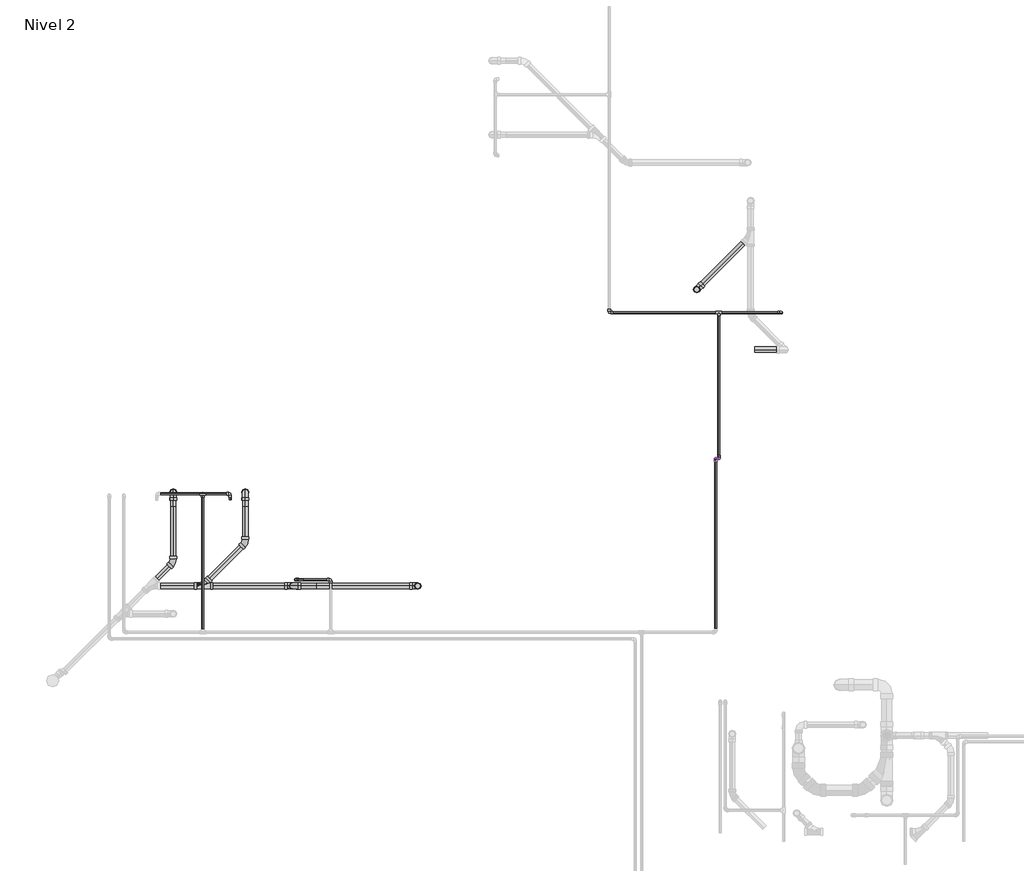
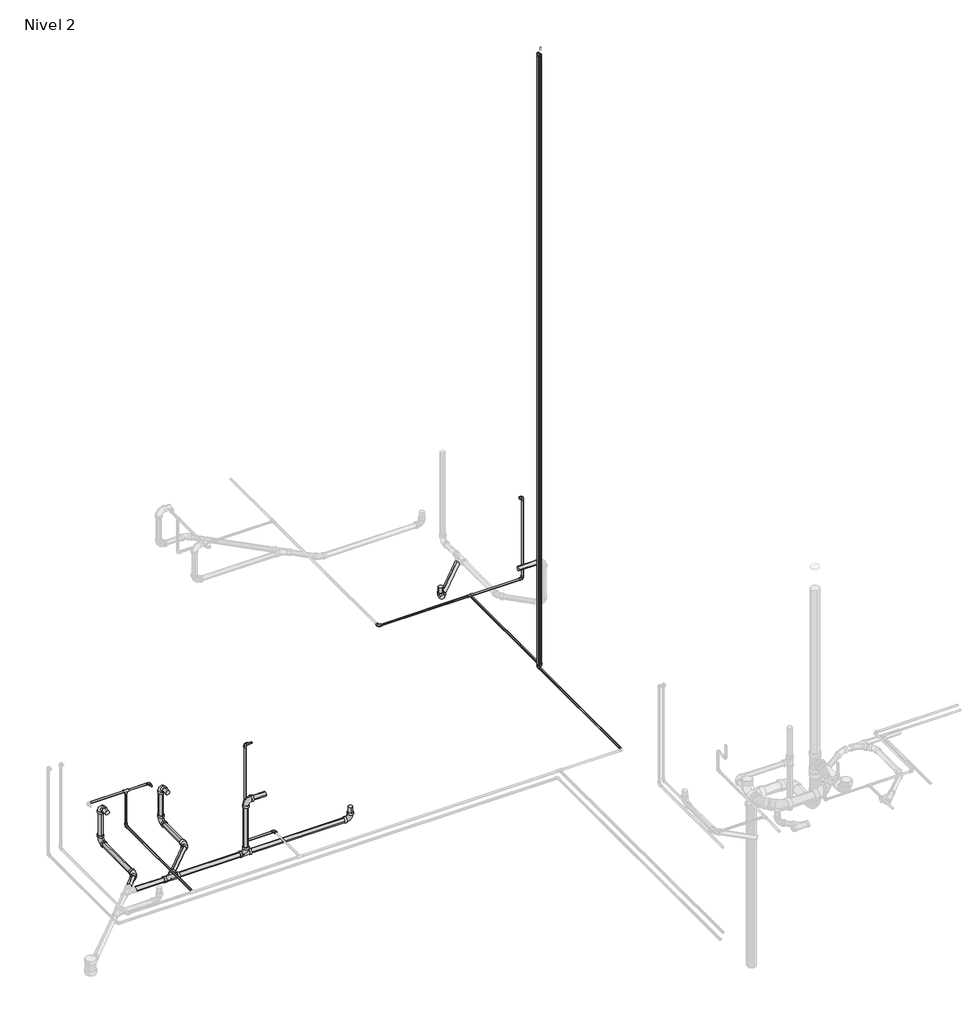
# One storey, part 5 of 9: 33 pipe segments, 24 pipe fittings.
"""IFC4 building model written with IfcOpenShell, lengths in millimetres."""

from ifc_helpers import new_model, si_unit, point, frame, frame_2d, origin, place, context, project, spatial, circle_curve, trimmed, segment, composite_curve, outline, extrude, transform, mapped, element, save
from components import pipe_fitting_ab418b84, pipe_fitting_0163322b, pipe_fitting_6ef1482d, m_codo_pvc_serie_40_9ad74631, m_codo_pvc_serie_40_dwv1_5c0ec739, m_codo_pvc_serie_40_dwv1_6f1a2495

model = new_model("IFC4")

# Units and contexts
model_context = context("Model", 3, world=origin())
ifc_project = project(units=[si_unit("LENGTHUNIT", "METRE", prefix="MILLI")], contexts=[model_context])

# Site, building, storey
site = spatial("IfcSite", under=ifc_project)
building = spatial("IfcBuilding", under=site)
storey = spatial("IfcBuildingStorey", under=building, Name="Nivel 2", Elevation=2800.0)

# Pipe fittings
placement = place(None, origin())
pipe_fitting_shape = pipe_fitting_ab418b84(model_context)
element("IfcPipeFitting", 1, ObjectType="M_Te - PVC - Serie 40 : Estándar", at=placement, inside=storey, context=model_context, shape_type="MappedRepresentation", body=[
    mapped(pipe_fitting_shape, transform((411.6630441, 9037.0181394, 3200.0), x_axis=(-1.0, 0.0, 0.0), y_axis=(0.0, 0.0, 1.0), z_axis=(0.0, 1.0, 0.0))),
])
element("IfcPipeFitting", 2, ObjectType="M_Te - PVC - Serie 40 : Estándar", at=placement, inside=storey, context=model_context, shape_type="MappedRepresentation", body=[
    mapped(pipe_fitting_shape, transform((5709.5674476, 10897.0181394, 2750.0), x_axis=(1.0, 0.0, 0.0), y_axis=(0.0, 1.0, 0.0), z_axis=(0.0, 0.0, 1.0))),
])
pipe_fitting_2_shape = pipe_fitting_0163322b(model_context)
element("IfcPipeFitting", 3, ObjectType="M_Sanitario con te de reducción - PVC - Serie 40 - DWV : Estándar", at=placement, inside=storey, context=model_context, shape_type="MappedRepresentation", body=[
    mapped(pipe_fitting_2_shape, transform((406.2028878, 8091.4220022, 2650.0), x_axis=(1.0, 0.0, 0.0), y_axis=(0.0, -1.0, 0.0), z_axis=(0.0, 0.0, -1.0))),
])
pipe_fitting_3_shape = pipe_fitting_6ef1482d(model_context)
element("IfcPipeFitting", 4, ObjectType="M_Sanitario con te de reducción - PVC - Serie 40 - DWV : Estándar", at=placement, inside=storey, context=model_context, shape_type="MappedRepresentation", body=[
    mapped(pipe_fitting_3_shape, transform((1335.9354338, 8091.4220022, 2650.0), x_axis=(1.0, 0.0, 0.0), y_axis=(0.0, 0.0, -1.0), z_axis=(0.0, 1.0, 0.0))),
])
m_codo_pvc_serie_40_shape = m_codo_pvc_serie_40_9ad74631(model_context)
element("IfcPipeFitting", 5, ObjectType="M_Codo - PVC - Serie 40 : Estándar", at=placement, inside=storey, context=model_context, shape_type="MappedRepresentation", body=[
    mapped(m_codo_pvc_serie_40_shape, transform((1725.1353284, 8157.0181394, 2750.0), x_axis=(0.0, 1.0, 0.0), y_axis=(-1.0, 0.0, 0.0), z_axis=(0.0, 0.0, 1.0))),
])
element("IfcPipeFitting", 6, ObjectType="M_Codo - PVC - Serie 40 : Estándar", at=placement, inside=storey, context=model_context, shape_type="MappedRepresentation", body=[
    mapped(m_codo_pvc_serie_40_shape, transform((1365.1353284, 8157.0181394, 2750.0), x_axis=(-1.0, 0.0, 0.0), y_axis=(0.0, 0.0, 1.0), z_axis=(0.0, 1.0, 0.0))),
])
element("IfcPipeFitting", 7, ObjectType="M_Codo - PVC - Serie 40 : Estándar", at=placement, inside=storey, context=model_context, shape_type="MappedRepresentation", body=[
    mapped(m_codo_pvc_serie_40_shape, transform((1365.1353284, 8157.0181394, 4000.0), x_axis=(0.0, 0.0, 1.0), y_axis=(1.0, 0.0, 0.0), z_axis=(0.0, 1.0, 0.0))),
])
element("IfcPipeFitting", 8, ObjectType="M_Codo - PVC - Serie 40 : Estándar", at=placement, inside=storey, context=model_context, shape_type="MappedRepresentation", body=[
    mapped(m_codo_pvc_serie_40_shape, transform((411.6630441, 9037.0181394, 2750.0), x_axis=(0.0, 1.0, 0.0), y_axis=(0.0, 0.0, 1.0), z_axis=(1.0, 0.0, 0.0))),
])
element("IfcPipeFitting", 9, ObjectType="M_Codo - PVC - Serie 40 : Estándar", at=placement, inside=storey, context=model_context, shape_type="MappedRepresentation", body=[
    mapped(m_codo_pvc_serie_40_shape, transform((691.6630441, 9037.0181394, 3200.0), x_axis=(0.0, 1.0, 0.0), y_axis=(-1.0, 0.0, 0.0), z_axis=(0.0, 0.0, 1.0))),
])
element("IfcPipeFitting", 10, ObjectType="M_Codo - PVC - Serie 40 : Estándar", at=placement, inside=storey, context=model_context, shape_type="MappedRepresentation", body=[
    mapped(m_codo_pvc_serie_40_shape, transform((4584.5674476, 10897.0181394, 2750.0), x_axis=(0.0, -1.0, 0.0), y_axis=(1.0, 0.0, 0.0), z_axis=(0.0, 0.0, 1.0))),
])
element("IfcPipeFitting", 11, ObjectType="M_Codo - PVC - Serie 40 : Estándar", at=placement, inside=storey, context=model_context, shape_type="MappedRepresentation", body=[
    mapped(m_codo_pvc_serie_40_shape, transform((6348.7776039, 10897.0181394, 2750.0), x_axis=(1.0, 0.0, 0.0), y_axis=(0.0, 0.0, 1.0), z_axis=(0.0, -1.0, 0.0))),
])
element("IfcPipeFitting", 12, ObjectType="M_Codo - PVC - Serie 40 : Estándar", at=placement, inside=storey, context=model_context, shape_type="MappedRepresentation", body=[
    mapped(m_codo_pvc_serie_40_shape, transform((6348.7776039, 10897.0181394, 3800.0), x_axis=(0.0, 0.0, 1.0), y_axis=(-1.0, 0.0, 0.0), z_axis=(0.0, -1.0, 0.0))),
])
element("IfcPipeFitting", 13, ObjectType="M_Codo - PVC - Serie 40 : Estándar", at=placement, inside=storey, context=model_context, shape_type="MappedRepresentation", body=[
    mapped(m_codo_pvc_serie_40_shape, transform((5676.6630441, 9399.5181394, 2750.0), x_axis=(0.0, 1.0, 0.0), y_axis=(0.0, 0.0, 1.0), z_axis=(1.0, 0.0, 0.0))),
])
element("IfcPipeFitting", 14, ObjectType="M_Codo - PVC - Serie 40 : Estándar", at=placement, inside=storey, context=model_context, shape_type="MappedRepresentation", body=[
    mapped(m_codo_pvc_serie_40_shape, transform((5709.5674476, 9399.5181394, 2750.0), x_axis=(0.0, -1.0, 0.0), y_axis=(0.0, 0.0, 1.0), z_axis=(-1.0, 0.0, 0.0))),
])
element("IfcPipeFitting", 15, ObjectType="M_Codo - PVC - Serie 40 : Estándar", at=placement, inside=storey, context=model_context, shape_type="MappedRepresentation", body=[
    mapped(m_codo_pvc_serie_40_shape, transform((5676.6630441, 9399.5181394, 10700.0), x_axis=(0.0, 0.0, 1.0), y_axis=(0.0, -1.0, 0.0), z_axis=(1.0, 0.0, 0.0))),
])
m_codo_pvc_serie_40_dwv1_shape = m_codo_pvc_serie_40_dwv1_5c0ec739(model_context)
element("IfcPipeFitting", 16, ObjectType="M_Codo - PVC - Serie 40 - DWV1 : Estándar 2", at=placement, inside=storey, context=model_context, shape_type="MappedRepresentation", body=[
    mapped(m_codo_pvc_serie_40_dwv1_shape, transform((5482.7118337, 11133.8085879, 2650.0), x_axis=(-0.7071067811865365, -0.7071067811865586, 0.0), y_axis=(0.0, 0.0, 1.0), z_axis=(-0.7071067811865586, 0.7071067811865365, 0.0))),
])
element("IfcPipeFitting", 17, ObjectType="M_Codo - PVC - Serie 40 - DWV1 : Estándar 2", at=placement, inside=storey, context=model_context, shape_type="MappedRepresentation", body=[
    mapped(m_codo_pvc_serie_40_dwv1_shape, transform((109.5958692, 9052.7311146, 3100.0), x_axis=(0.0, 1.0, 0.0), y_axis=(0.0, 0.0, -1.0), z_axis=(-1.0, 0.0, 0.0))),
])
element("IfcPipeFitting", 18, ObjectType="M_Codo - PVC - Serie 40 - DWV1 : Estándar 2", at=placement, inside=storey, context=model_context, shape_type="MappedRepresentation", body=[
    mapped(m_codo_pvc_serie_40_dwv1_shape, transform((109.5958692, 9052.7311146, 2650.0), x_axis=(0.0, 0.0, -1.0), y_axis=(0.0, -1.0, 0.0), z_axis=(-1.0, 0.0, 0.0))),
])
element("IfcPipeFitting", 19, ObjectType="M_Codo - PVC - Serie 40 - DWV1 : Estándar 2", at=placement, inside=storey, context=model_context, shape_type="MappedRepresentation", body=[
    mapped(m_codo_pvc_serie_40_dwv1_shape, transform((849.5958692, 9052.7311146, 3100.0), x_axis=(0.0, 1.0, 0.0), y_axis=(0.0, 0.0, -1.0), z_axis=(-1.0, 0.0, 0.0))),
])
element("IfcPipeFitting", 20, ObjectType="M_Codo - PVC - Serie 40 - DWV1 : Estándar 2", at=placement, inside=storey, context=model_context, shape_type="MappedRepresentation", body=[
    mapped(m_codo_pvc_serie_40_dwv1_shape, transform((849.5958692, 9052.7311146, 2650.0), x_axis=(0.0, 0.0, -1.0), y_axis=(0.0, -1.0, 0.0), z_axis=(-1.0, 0.0, 0.0))),
])
element("IfcPipeFitting", 21, ObjectType="M_Codo - PVC - Serie 40 - DWV1 : Estándar 2", at=placement, inside=storey, context=model_context, shape_type="MappedRepresentation", body=[
    mapped(m_codo_pvc_serie_40_dwv1_shape, transform((1335.9354338, 8091.4220022, 3330.0), x_axis=(0.0, 0.0, 1.0), y_axis=(1.0, 0.0, 0.0), z_axis=(0.0, 1.0, 0.0))),
])
element("IfcPipeFitting", 22, ObjectType="M_Codo - PVC - Serie 40 - DWV1 : Estándar 2", at=placement, inside=storey, context=model_context, shape_type="MappedRepresentation", body=[
    mapped(m_codo_pvc_serie_40_dwv1_shape, transform((2619.133962, 8091.4220022, 2650.0), x_axis=(0.0, 0.0, -1.0), y_axis=(-1.0, 0.0, 0.0), z_axis=(0.0, 1.0, 0.0))),
])
m_codo_pvc_serie_40_dwv1_2_shape = m_codo_pvc_serie_40_dwv1_6f1a2495(model_context)
element("IfcPipeFitting", 23, ObjectType="M_Codo - PVC - Serie 40 - DWV1 : Estándar 2", at=placement, inside=storey, context=model_context, shape_type="MappedRepresentation", body=[
    mapped(m_codo_pvc_serie_40_dwv1_2_shape, transform((109.5958692, 8334.8149836, 2650.0), x_axis=(0.7071067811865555, 0.7071067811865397, 0.0), y_axis=(-0.7071067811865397, 0.7071067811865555, 0.0), z_axis=(0.0, 0.0, 1.0))),
])
element("IfcPipeFitting", 24, ObjectType="M_Codo - PVC - Serie 40 - DWV1 : Estándar 2", at=placement, inside=storey, context=model_context, shape_type="MappedRepresentation", body=[
    mapped(m_codo_pvc_serie_40_dwv1_2_shape, transform((849.5958692, 8534.8149836, 2650.0), x_axis=(0.7071067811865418, 0.7071067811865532, 0.0), y_axis=(-0.7071067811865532, 0.7071067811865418, 0.0), z_axis=(0.0, 0.0, 1.0))),
])

# Pipe segments
element("IfcPipeSegment", 25, ObjectType="Tuberia PVC Agua Fria", at=placement, inside=storey, context=model_context, shape_type="SweptSolid", body=[
    extrude(outline(composite_curve([segment(trimmed(circle_curve(frame_2d((2750.0, 5676.6630441)), 10.31875), [point((2750.0, 5686.9817941))], [point((2760.31875, 5676.6630441))], False, "CARTESIAN"), True, "CONTINUOUS"), segment(trimmed(circle_curve(frame_2d((2750.0, 5676.6630441)), 10.31875), [point((2760.31875, 5676.6630441))], [point((2750.0, 5666.3442941))], False, "CARTESIAN"), True, "CONTINUOUS"), segment(trimmed(circle_curve(frame_2d((2750.0, 5676.6630441)), 10.31875), [point((2750.0, 5666.3442941))], [point((2739.68125, 5676.6630441))], False, "CARTESIAN"), True, "CONTINUOUS"), segment(trimmed(circle_curve(frame_2d((2750.0, 5676.6630441)), 10.31875), [point((2739.68125, 5676.6630441))], [point((2750.0, 5686.9817941))], False, "CARTESIAN"), True, "CONTINUOUS")], self_intersect=False)), frame((0.0, 7650.4191394, 0.0), z_axis=(0.0, 1.0, 0.0), x_axis=(0.0, 0.0, 1.0)), (0.0, 0.0, 1.0), 1715.698),
])
element("IfcPipeSegment", 26, ObjectType="Tuberia PVC Agua Fria", at=placement, inside=storey, context=model_context, shape_type="SweptSolid", body=[
    extrude(outline(composite_curve([segment(trimmed(circle_curve(frame_2d((2750.0, 411.6630441)), 10.31875), [point((2750.0, 421.9817941))], [point((2760.31875, 411.6630441))], False, "CARTESIAN"), True, "CONTINUOUS"), segment(trimmed(circle_curve(frame_2d((2750.0, 411.6630441)), 10.31875), [point((2760.31875, 411.6630441))], [point((2750.0, 401.3442941))], False, "CARTESIAN"), True, "CONTINUOUS"), segment(trimmed(circle_curve(frame_2d((2750.0, 411.6630441)), 10.31875), [point((2750.0, 401.3442941))], [point((2739.68125, 411.6630441))], False, "CARTESIAN"), True, "CONTINUOUS"), segment(trimmed(circle_curve(frame_2d((2750.0, 411.6630441)), 10.31875), [point((2739.68125, 411.6630441))], [point((2750.0, 421.9817941))], False, "CARTESIAN"), True, "CONTINUOUS")], self_intersect=False)), frame((0.0, 7647.4782956, 0.0), z_axis=(0.0, 1.0, 0.0), x_axis=(0.0, 0.0, 1.0)), (0.0, 0.0, 1.0), 1356.1388437),
])
element("IfcPipeSegment", 27, ObjectType="Tuberia PVC Agua Fria", at=placement, inside=storey, context=model_context, shape_type="SweptSolid", body=[
    extrude(outline(composite_curve([segment(trimmed(circle_curve(frame_2d((8157.0181394, 2750.0)), 10.31875), [point((8167.3368894, 2750.0))], [point((8157.0181394, 2739.68125))], False, "CARTESIAN"), True, "CONTINUOUS"), segment(trimmed(circle_curve(frame_2d((8157.0181394, 2750.0)), 10.31875), [point((8157.0181394, 2739.68125))], [point((8146.6993894, 2750.0))], False, "CARTESIAN"), True, "CONTINUOUS"), segment(trimmed(circle_curve(frame_2d((8157.0181394, 2750.0)), 10.31875), [point((8146.6993894, 2750.0))], [point((8157.0181394, 2760.31875))], False, "CARTESIAN"), True, "CONTINUOUS"), segment(trimmed(circle_curve(frame_2d((8157.0181394, 2750.0)), 10.31875), [point((8157.0181394, 2760.31875))], [point((8167.3368894, 2750.0))], False, "CARTESIAN"), True, "CONTINUOUS")], self_intersect=False)), frame((1398.5363284, 0.0, 0.0), z_axis=(1.0, 0.0, 0.0), x_axis=(0.0, 1.0, 0.0)), (0.0, 0.0, 1.0), 293.198),
])
element("IfcPipeSegment", 28, ObjectType="Tuberia PVC Agua Fria", at=placement, inside=storey, context=model_context, shape_type="SweptSolid", body=[
    extrude(outline(composite_curve([segment(trimmed(circle_curve(frame_2d((8157.0181394, 4000.0)), 10.31875), [point((8146.6993894, 4000.0))], [point((8157.0181394, 4010.31875))], False, "CARTESIAN"), True, "CONTINUOUS"), segment(trimmed(circle_curve(frame_2d((8157.0181394, 4000.0)), 10.31875), [point((8157.0181394, 4010.31875))], [point((8167.3368894, 4000.0))], False, "CARTESIAN"), True, "CONTINUOUS"), segment(trimmed(circle_curve(frame_2d((8157.0181394, 4000.0)), 10.31875), [point((8167.3368894, 4000.0))], [point((8157.0181394, 3989.68125))], False, "CARTESIAN"), True, "CONTINUOUS"), segment(trimmed(circle_curve(frame_2d((8157.0181394, 4000.0)), 10.31875), [point((8157.0181394, 3989.68125))], [point((8146.6993894, 4000.0))], False, "CARTESIAN"), True, "CONTINUOUS")], self_intersect=False)), frame((1398.5363284, 0.0, 0.0), z_axis=(1.0, 0.0, 0.0), x_axis=(0.0, 1.0, 0.0)), (0.0, 0.0, 1.0), 46.599),
])
element("IfcPipeSegment", 29, ObjectType="Tuberia PVC Agua Fria", at=placement, inside=storey, context=model_context, shape_type="SweptSolid", body=[
    extrude(outline(composite_curve([segment(trimmed(circle_curve(frame_2d((1365.1353284, 8157.0181394)), 10.31875), [point((1354.8165784, 8157.0181394))], [point((1365.1353284, 8167.3368894))], False, "CARTESIAN"), True, "CONTINUOUS"), segment(trimmed(circle_curve(frame_2d((1365.1353284, 8157.0181394)), 10.31875), [point((1365.1353284, 8167.3368894))], [point((1375.4540784, 8157.0181394))], False, "CARTESIAN"), True, "CONTINUOUS"), segment(trimmed(circle_curve(frame_2d((1365.1353284, 8157.0181394)), 10.31875), [point((1375.4540784, 8157.0181394))], [point((1365.1353284, 8146.6993894))], False, "CARTESIAN"), True, "CONTINUOUS"), segment(trimmed(circle_curve(frame_2d((1365.1353284, 8157.0181394)), 10.31875), [point((1365.1353284, 8146.6993894))], [point((1354.8165784, 8157.0181394))], False, "CARTESIAN"), True, "CONTINUOUS")], self_intersect=False)), frame((0.0, 0.0, 2783.401), z_axis=(0.0, 0.0, 1.0), x_axis=(1.0, 0.0, 0.0)), (0.0, 0.0, 1.0), 1183.198),
])
element("IfcPipeSegment", 30, ObjectType="Tuberia PVC Agua Fria", at=placement, inside=storey, context=model_context, shape_type="SweptSolid", body=[
    extrude(outline(composite_curve([segment(trimmed(circle_curve(frame_2d((9037.0181394, 3200.0)), 10.31875), [point((9026.6993894, 3200.0))], [point((9037.0181394, 3210.31875))], False, "CARTESIAN"), True, "CONTINUOUS"), segment(trimmed(circle_curve(frame_2d((9037.0181394, 3200.0)), 10.31875), [point((9037.0181394, 3210.31875))], [point((9047.3368894, 3200.0))], False, "CARTESIAN"), True, "CONTINUOUS"), segment(trimmed(circle_curve(frame_2d((9037.0181394, 3200.0)), 10.31875), [point((9047.3368894, 3200.0))], [point((9037.0181394, 3189.68125))], False, "CARTESIAN"), True, "CONTINUOUS"), segment(trimmed(circle_curve(frame_2d((9037.0181394, 3200.0)), 10.31875), [point((9037.0181394, 3189.68125))], [point((9026.6993894, 3200.0))], False, "CARTESIAN"), True, "CONTINUOUS")], self_intersect=False)), frame((442.1232003, 0.0, 0.0), z_axis=(1.0, 0.0, 0.0), x_axis=(0.0, 1.0, 0.0)), (0.0, 0.0, 1.0), 216.1388438),
])
element("IfcPipeSegment", 31, ObjectType="Tuberia PVC Agua Fria", at=placement, inside=storey, context=model_context, shape_type="SweptSolid", body=[
    extrude(outline(composite_curve([segment(trimmed(circle_curve(frame_2d((411.6630441, 9037.0181394)), 10.31875), [point((401.3442941, 9037.0181394))], [point((411.6630441, 9047.3368894))], False, "CARTESIAN"), True, "CONTINUOUS"), segment(trimmed(circle_curve(frame_2d((411.6630441, 9037.0181394)), 10.31875), [point((411.6630441, 9047.3368894))], [point((421.9817941, 9037.0181394))], False, "CARTESIAN"), True, "CONTINUOUS"), segment(trimmed(circle_curve(frame_2d((411.6630441, 9037.0181394)), 10.31875), [point((421.9817941, 9037.0181394))], [point((411.6630441, 9026.6993894))], False, "CARTESIAN"), True, "CONTINUOUS"), segment(trimmed(circle_curve(frame_2d((411.6630441, 9037.0181394)), 10.31875), [point((411.6630441, 9026.6993894))], [point((401.3442941, 9037.0181394))], False, "CARTESIAN"), True, "CONTINUOUS")], self_intersect=False)), frame((0.0, 0.0, 2783.401), z_axis=(0.0, 0.0, 1.0), x_axis=(1.0, 0.0, 0.0)), (0.0, 0.0, 1.0), 386.1388438),
])
element("IfcPipeSegment", 32, ObjectType="Tuberia PVC Agua Fria", at=placement, inside=storey, context=model_context, shape_type="SweptSolid", body=[
    extrude(outline(composite_curve([segment(trimmed(circle_curve(frame_2d((3200.0, 691.6630441)), 10.31875), [point((3200.0, 681.3442941))], [point((3189.68125, 691.6630441))], False, "CARTESIAN"), True, "CONTINUOUS"), segment(trimmed(circle_curve(frame_2d((3200.0, 691.6630441)), 10.31875), [point((3189.68125, 691.6630441))], [point((3200.0, 701.9817941))], False, "CARTESIAN"), True, "CONTINUOUS"), segment(trimmed(circle_curve(frame_2d((3200.0, 691.6630441)), 10.31875), [point((3200.0, 701.9817941))], [point((3210.31875, 691.6630441))], False, "CARTESIAN"), True, "CONTINUOUS"), segment(trimmed(circle_curve(frame_2d((3200.0, 691.6630441)), 10.31875), [point((3210.31875, 691.6630441))], [point((3200.0, 681.3442941))], False, "CARTESIAN"), True, "CONTINUOUS")], self_intersect=False)), frame((0.0, 8977.0181394, 0.0), z_axis=(0.0, 1.0, 0.0), x_axis=(0.0, 0.0, 1.0)), (0.0, 0.0, 1.0), 26.599),
])
element("IfcPipeSegment", 33, ObjectType="Tuberia PVC Agua Fria", at=placement, inside=storey, context=model_context, shape_type="SweptSolid", body=[
    extrude(outline(composite_curve([segment(trimmed(circle_curve(frame_2d((9037.0181394, 3200.0)), 10.31875), [point((9047.3368894, 3200.0))], [point((9037.0181394, 3189.68125))], False, "CARTESIAN"), True, "CONTINUOUS"), segment(trimmed(circle_curve(frame_2d((9037.0181394, 3200.0)), 10.31875), [point((9037.0181394, 3189.68125))], [point((9026.6993894, 3200.0))], False, "CARTESIAN"), True, "CONTINUOUS"), segment(trimmed(circle_curve(frame_2d((9037.0181394, 3200.0)), 10.31875), [point((9026.6993894, 3200.0))], [point((9037.0181394, 3210.31875))], False, "CARTESIAN"), True, "CONTINUOUS"), segment(trimmed(circle_curve(frame_2d((9037.0181394, 3200.0)), 10.31875), [point((9037.0181394, 3210.31875))], [point((9047.3368894, 3200.0))], False, "CARTESIAN"), True, "CONTINUOUS")], self_intersect=False)), frame((-25.3961122, 0.0, 0.0), z_axis=(1.0, 0.0, 0.0), x_axis=(0.0, 1.0, 0.0)), (0.0, 0.0, 1.0), 406.599),
])
element("IfcPipeSegment", 34, ObjectType="Tuberia PVC Agua Fria", at=placement, inside=storey, context=model_context, shape_type="SweptSolid", body=[
    extrude(outline(composite_curve([segment(trimmed(circle_curve(frame_2d((2750.0, 5709.5674476)), 10.31875), [point((2750.0, 5719.8861976))], [point((2760.31875, 5709.5674476))], False, "CARTESIAN"), True, "CONTINUOUS"), segment(trimmed(circle_curve(frame_2d((2750.0, 5709.5674476)), 10.31875), [point((2760.31875, 5709.5674476))], [point((2750.0, 5699.2486976))], False, "CARTESIAN"), True, "CONTINUOUS"), segment(trimmed(circle_curve(frame_2d((2750.0, 5709.5674476)), 10.31875), [point((2750.0, 5699.2486976))], [point((2739.68125, 5709.5674476))], False, "CARTESIAN"), True, "CONTINUOUS"), segment(trimmed(circle_curve(frame_2d((2750.0, 5709.5674476)), 10.31875), [point((2739.68125, 5709.5674476))], [point((2750.0, 5719.8861976))], False, "CARTESIAN"), True, "CONTINUOUS")], self_intersect=False)), frame((0.0, 9432.9191394, 0.0), z_axis=(0.0, 1.0, 0.0), x_axis=(0.0, 0.0, 1.0)), (0.0, 0.0, 1.0), 1433.6388438),
])
element("IfcPipeSegment", 35, ObjectType="Tuberia PVC Agua Fria", at=placement, inside=storey, context=model_context, shape_type="SweptSolid", body=[
    extrude(outline(composite_curve([segment(trimmed(circle_curve(frame_2d((10897.0181394, 2750.0)), 10.31875), [point((10907.3368894, 2750.0))], [point((10897.0181394, 2739.68125))], False, "CARTESIAN"), True, "CONTINUOUS"), segment(trimmed(circle_curve(frame_2d((10897.0181394, 2750.0)), 10.31875), [point((10897.0181394, 2739.68125))], [point((10886.6993894, 2750.0))], False, "CARTESIAN"), True, "CONTINUOUS"), segment(trimmed(circle_curve(frame_2d((10897.0181394, 2750.0)), 10.31875), [point((10886.6993894, 2750.0))], [point((10897.0181394, 2760.31875))], False, "CARTESIAN"), True, "CONTINUOUS"), segment(trimmed(circle_curve(frame_2d((10897.0181394, 2750.0)), 10.31875), [point((10897.0181394, 2760.31875))], [point((10907.3368894, 2750.0))], False, "CARTESIAN"), True, "CONTINUOUS")], self_intersect=False)), frame((4617.9684476, 0.0, 0.0), z_axis=(1.0, 0.0, 0.0), x_axis=(0.0, 1.0, 0.0)), (0.0, 0.0, 1.0), 1061.1388438),
])
element("IfcPipeSegment", 36, ObjectType="Tuberia PVC Agua Fria", at=placement, inside=storey, context=model_context, shape_type="SweptSolid", body=[
    extrude(outline(composite_curve([segment(trimmed(circle_curve(frame_2d((10897.0181394, 2750.0)), 10.31875), [point((10886.6993894, 2750.0))], [point((10897.0181394, 2760.31875))], False, "CARTESIAN"), True, "CONTINUOUS"), segment(trimmed(circle_curve(frame_2d((10897.0181394, 2750.0)), 10.31875), [point((10897.0181394, 2760.31875))], [point((10907.3368894, 2750.0))], False, "CARTESIAN"), True, "CONTINUOUS"), segment(trimmed(circle_curve(frame_2d((10897.0181394, 2750.0)), 10.31875), [point((10907.3368894, 2750.0))], [point((10897.0181394, 2739.68125))], False, "CARTESIAN"), True, "CONTINUOUS"), segment(trimmed(circle_curve(frame_2d((10897.0181394, 2750.0)), 10.31875), [point((10897.0181394, 2739.68125))], [point((10886.6993894, 2750.0))], False, "CARTESIAN"), True, "CONTINUOUS")], self_intersect=False)), frame((5740.0276039, 0.0, 0.0), z_axis=(1.0, 0.0, 0.0), x_axis=(0.0, 1.0, 0.0)), (0.0, 0.0, 1.0), 575.349),
])
element("IfcPipeSegment", 37, ObjectType="Tuberia PVC Agua Fria", at=placement, inside=storey, context=model_context, shape_type="SweptSolid", body=[
    extrude(outline(composite_curve([segment(trimmed(circle_curve(frame_2d((6348.7776039, 10897.0181394)), 10.31875), [point((6338.4588539, 10897.0181394))], [point((6348.7776039, 10907.3368894))], False, "CARTESIAN"), True, "CONTINUOUS"), segment(trimmed(circle_curve(frame_2d((6348.7776039, 10897.0181394)), 10.31875), [point((6348.7776039, 10907.3368894))], [point((6359.0963539, 10897.0181394))], False, "CARTESIAN"), True, "CONTINUOUS"), segment(trimmed(circle_curve(frame_2d((6348.7776039, 10897.0181394)), 10.31875), [point((6359.0963539, 10897.0181394))], [point((6348.7776039, 10886.6993894))], False, "CARTESIAN"), True, "CONTINUOUS"), segment(trimmed(circle_curve(frame_2d((6348.7776039, 10897.0181394)), 10.31875), [point((6348.7776039, 10886.6993894))], [point((6338.4588539, 10897.0181394))], False, "CARTESIAN"), True, "CONTINUOUS")], self_intersect=False)), frame((0.0, 0.0, 2783.401), z_axis=(0.0, 0.0, 1.0), x_axis=(1.0, 0.0, 0.0)), (0.0, 0.0, 1.0), 983.198),
])
element("IfcPipeSegment", 38, ObjectType="Tuberia PVC Agua Fria", at=placement, inside=storey, context=model_context, shape_type="SweptSolid", body=[
    extrude(outline(composite_curve([segment(trimmed(circle_curve(frame_2d((5676.6630441, 9399.5181394)), 10.31875), [point((5666.3442941, 9399.5181394))], [point((5676.6630441, 9409.8368894))], False, "CARTESIAN"), True, "CONTINUOUS"), segment(trimmed(circle_curve(frame_2d((5676.6630441, 9399.5181394)), 10.31875), [point((5676.6630441, 9409.8368894))], [point((5686.9817941, 9399.5181394))], False, "CARTESIAN"), True, "CONTINUOUS"), segment(trimmed(circle_curve(frame_2d((5676.6630441, 9399.5181394)), 10.31875), [point((5686.9817941, 9399.5181394))], [point((5676.6630441, 9389.1993894))], False, "CARTESIAN"), True, "CONTINUOUS"), segment(trimmed(circle_curve(frame_2d((5676.6630441, 9399.5181394)), 10.31875), [point((5676.6630441, 9389.1993894))], [point((5666.3442941, 9399.5181394))], False, "CARTESIAN"), True, "CONTINUOUS")], self_intersect=False)), frame((0.0, 0.0, 2783.401), z_axis=(0.0, 0.0, 1.0), x_axis=(1.0, 0.0, 0.0)), (0.0, 0.0, 1.0), 7883.198),
])
element("IfcPipeSegment", 39, ObjectType="Tuberia PVC Agua Fria", at=placement, inside=storey, context=model_context, shape_type="SweptSolid", body=[
    extrude(outline(composite_curve([segment(trimmed(circle_curve(frame_2d((5709.5674476, 9399.5181394)), 10.31875), [point((5699.2486976, 9399.5181394))], [point((5709.5674476, 9409.8368894))], False, "CARTESIAN"), True, "CONTINUOUS"), segment(trimmed(circle_curve(frame_2d((5709.5674476, 9399.5181394)), 10.31875), [point((5709.5674476, 9409.8368894))], [point((5719.8861976, 9399.5181394))], False, "CARTESIAN"), True, "CONTINUOUS"), segment(trimmed(circle_curve(frame_2d((5709.5674476, 9399.5181394)), 10.31875), [point((5719.8861976, 9399.5181394))], [point((5709.5674476, 9389.1993894))], False, "CARTESIAN"), True, "CONTINUOUS"), segment(trimmed(circle_curve(frame_2d((5709.5674476, 9399.5181394)), 10.31875), [point((5709.5674476, 9389.1993894))], [point((5699.2486976, 9399.5181394))], False, "CARTESIAN"), True, "CONTINUOUS")], self_intersect=False)), frame((0.0, 0.0, 10730.4601563), z_axis=(0.0, 0.0, 1.0), x_axis=(1.0, 0.0, 0.0)), (0.0, 0.0, 1.0), 32.3234062),
])
element("IfcPipeSegment", 40, ObjectType="Tuberia PVC Agua Fria", at=placement, inside=storey, context=model_context, shape_type="SweptSolid", body=[
    extrude(outline(composite_curve([segment(trimmed(circle_curve(frame_2d((5709.5674476, 9399.5181394)), 10.31875), [point((5699.2486976, 9399.5181394))], [point((5709.5674476, 9409.8368894))], False, "CARTESIAN"), True, "CONTINUOUS"), segment(trimmed(circle_curve(frame_2d((5709.5674476, 9399.5181394)), 10.31875), [point((5709.5674476, 9409.8368894))], [point((5719.8861976, 9399.5181394))], False, "CARTESIAN"), True, "CONTINUOUS"), segment(trimmed(circle_curve(frame_2d((5709.5674476, 9399.5181394)), 10.31875), [point((5719.8861976, 9399.5181394))], [point((5709.5674476, 9389.1993894))], False, "CARTESIAN"), True, "CONTINUOUS"), segment(trimmed(circle_curve(frame_2d((5709.5674476, 9399.5181394)), 10.31875), [point((5709.5674476, 9389.1993894))], [point((5699.2486976, 9399.5181394))], False, "CARTESIAN"), True, "CONTINUOUS")], self_intersect=False)), frame((0.0, 0.0, 2783.401), z_axis=(0.0, 0.0, 1.0), x_axis=(1.0, 0.0, 0.0)), (0.0, 0.0, 1.0), 7886.1388438),
])
element("IfcPipeSegment", 41, ObjectType="Tuberia PVC Sanitario", at=placement, inside=storey, context=model_context, shape_type="SweptSolid", body=[
    extrude(outline(composite_curve([segment(trimmed(circle_curve(frame_2d((10516.9594307, 3200.0)), 26.9875), [point((10543.9469307, 3200.0))], [point((10516.9594307, 3173.0125))], False, "CARTESIAN"), True, "CONTINUOUS"), segment(trimmed(circle_curve(frame_2d((10516.9594307, 3200.0)), 26.9875), [point((10516.9594307, 3173.0125))], [point((10489.9719307, 3200.0))], False, "CARTESIAN"), True, "CONTINUOUS"), segment(trimmed(circle_curve(frame_2d((10516.9594307, 3200.0)), 26.9875), [point((10489.9719307, 3200.0))], [point((10516.9594307, 3226.9875))], False, "CARTESIAN"), True, "CONTINUOUS"), segment(trimmed(circle_curve(frame_2d((10516.9594307, 3200.0)), 26.9875), [point((10516.9594307, 3226.9875))], [point((10543.9469307, 3200.0))], False, "CARTESIAN"), True, "CONTINUOUS")], self_intersect=False)), frame((6077.7966771, 0.0, 0.0), z_axis=(1.0, 0.0, 0.0), x_axis=(0.0, 1.0, 0.0)), (0.0, 0.0, 1.0), 227.4579375),
])
element("IfcPipeSegment", 42, ObjectType="Tuberia PVC Sanitario", at=placement, inside=storey, context=model_context, shape_type="SweptSolid", body=[
    extrude(outline(composite_curve([segment(trimmed(circle_curve(frame_2d((0.0, -26.9875)), 26.9875), [point((-26.9875001, -26.9875))], [point((0.0, 0.0))], False, "CARTESIAN"), True, "CONTINUOUS"), segment(trimmed(circle_curve(frame_2d((0.0, -26.9875)), 26.9875), [point((0.0, 0.0))], [point((26.9874999, -26.9875))], False, "CARTESIAN"), True, "CONTINUOUS"), segment(trimmed(circle_curve(frame_2d((0.0, -26.9875)), 26.9875), [point((26.9874999, -26.9875))], [point((0.0, -53.975))], False, "CARTESIAN"), True, "CONTINUOUS"), segment(trimmed(circle_curve(frame_2d((0.0, -26.9875)), 26.9875), [point((0.0, -53.975))], [point((-26.9875001, -26.9875))], False, "CARTESIAN"), True, "CONTINUOUS")], self_intersect=False)), frame((5541.0778859, 11192.17464, 2623.0125), z_axis=(0.7071067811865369, 0.7071067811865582, 0.0), x_axis=(0.7071067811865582, -0.7071067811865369, 0.0)), (0.0, 0.0, 1.0), 588.6203308),
])
element("IfcPipeSegment", 43, ObjectType="Tuberia PVC Sanitario", at=placement, inside=storey, context=model_context, shape_type="SweptSolid", body=[
    extrude(outline(composite_curve([segment(trimmed(circle_curve(frame_2d((5482.7118337, 11133.8085879)), 26.9875), [point((5455.7243337, 11133.8085879))], [point((5482.7118337, 11160.7960879))], False, "CARTESIAN"), True, "CONTINUOUS"), segment(trimmed(circle_curve(frame_2d((5482.7118337, 11133.8085879)), 26.9875), [point((5482.7118337, 11160.7960879))], [point((5509.6993337, 11133.8085879))], False, "CARTESIAN"), True, "CONTINUOUS"), segment(trimmed(circle_curve(frame_2d((5482.7118337, 11133.8085879)), 26.9875), [point((5509.6993337, 11133.8085879))], [point((5482.7118337, 11106.8210879))], False, "CARTESIAN"), True, "CONTINUOUS"), segment(trimmed(circle_curve(frame_2d((5482.7118337, 11133.8085879)), 26.9875), [point((5482.7118337, 11106.8210879))], [point((5455.7243337, 11133.8085879))], False, "CARTESIAN"), True, "CONTINUOUS")], self_intersect=False)), frame((0.0, 0.0, 2732.5420625), z_axis=(0.0, 0.0, 1.0), x_axis=(1.0, 0.0, 0.0)), (0.0, 0.0, 1.0), 67.4579375),
])
element("IfcPipeSegment", 44, ObjectType="Tuberia PVC Sanitario", at=placement, inside=storey, context=model_context, shape_type="SweptSolid", body=[
    extrude(outline(composite_curve([segment(trimmed(circle_curve(frame_2d((3100.0, 109.5958692)), 26.9875), [point((3100.0, 136.5833692))], [point((3126.9875, 109.5958692))], False, "CARTESIAN"), True, "CONTINUOUS"), segment(trimmed(circle_curve(frame_2d((3100.0, 109.5958692)), 26.9875), [point((3126.9875, 109.5958692))], [point((3100.0, 82.6083692))], False, "CARTESIAN"), True, "CONTINUOUS"), segment(trimmed(circle_curve(frame_2d((3100.0, 109.5958692)), 26.9875), [point((3100.0, 82.6083692))], [point((3073.0125, 109.5958692))], False, "CARTESIAN"), True, "CONTINUOUS"), segment(trimmed(circle_curve(frame_2d((3100.0, 109.5958692)), 26.9875), [point((3073.0125, 109.5958692))], [point((3100.0, 136.5833692))], False, "CARTESIAN"), True, "CONTINUOUS")], self_intersect=False)), frame((0.0, 8907.7311146, 0.0), z_axis=(0.0, 1.0, 0.0), x_axis=(0.0, 0.0, 1.0)), (0.0, 0.0, 1.0), 62.4579375),
])
element("IfcPipeSegment", 45, ObjectType="Tuberia PVC Sanitario", at=placement, inside=storey, context=model_context, shape_type="SweptSolid", body=[
    extrude(outline(composite_curve([segment(trimmed(circle_curve(frame_2d((2650.0, 109.5958692)), 26.9875), [point((2650.0, 82.6083692))], [point((2623.0125, 109.5958692))], False, "CARTESIAN"), True, "CONTINUOUS"), segment(trimmed(circle_curve(frame_2d((2650.0, 109.5958692)), 26.9875), [point((2623.0125, 109.5958692))], [point((2650.0, 136.5833692))], False, "CARTESIAN"), True, "CONTINUOUS"), segment(trimmed(circle_curve(frame_2d((2650.0, 109.5958692)), 26.9875), [point((2650.0, 136.5833692))], [point((2676.9875, 109.5958692))], False, "CARTESIAN"), True, "CONTINUOUS"), segment(trimmed(circle_curve(frame_2d((2650.0, 109.5958692)), 26.9875), [point((2676.9875, 109.5958692))], [point((2650.0, 82.6083692))], False, "CARTESIAN"), True, "CONTINUOUS")], self_intersect=False)), frame((0.0, 8395.2431711, 0.0), z_axis=(0.0, 1.0, 0.0), x_axis=(0.0, 0.0, 1.0)), (0.0, 0.0, 1.0), 574.945881),
])
element("IfcPipeSegment", 46, ObjectType="Tuberia PVC Sanitario", at=placement, inside=storey, context=model_context, shape_type="SweptSolid", body=[
    extrude(outline(composite_curve([segment(trimmed(circle_curve(frame_2d((109.5958692, 9052.7311146)), 26.9875), [point((136.5833692, 9052.7311146))], [point((109.5958692, 9025.7436146))], False, "CARTESIAN"), True, "CONTINUOUS"), segment(trimmed(circle_curve(frame_2d((109.5958692, 9052.7311146)), 26.9875), [point((109.5958692, 9025.7436146))], [point((82.6083692, 9052.7311146))], False, "CARTESIAN"), True, "CONTINUOUS"), segment(trimmed(circle_curve(frame_2d((109.5958692, 9052.7311146)), 26.9875), [point((82.6083692, 9052.7311146))], [point((109.5958692, 9079.7186146))], False, "CARTESIAN"), True, "CONTINUOUS"), segment(trimmed(circle_curve(frame_2d((109.5958692, 9052.7311146)), 26.9875), [point((109.5958692, 9079.7186146))], [point((136.5833692, 9052.7311146))], False, "CARTESIAN"), True, "CONTINUOUS")], self_intersect=False)), frame((0.0, 0.0, 2732.5420625), z_axis=(0.0, 0.0, 1.0), x_axis=(1.0, 0.0, 0.0)), (0.0, 0.0, 1.0), 284.915875),
])
element("IfcPipeSegment", 47, ObjectType="Tuberia PVC Sanitario", at=placement, inside=storey, context=model_context, shape_type="SweptSolid", body=[
    extrude(outline(composite_curve([segment(trimmed(circle_curve(frame_2d((3100.0, 849.5958692)), 26.9875), [point((3100.0, 876.5833692))], [point((3126.9875, 849.5958692))], False, "CARTESIAN"), True, "CONTINUOUS"), segment(trimmed(circle_curve(frame_2d((3100.0, 849.5958692)), 26.9875), [point((3126.9875, 849.5958692))], [point((3100.0, 822.6083692))], False, "CARTESIAN"), True, "CONTINUOUS"), segment(trimmed(circle_curve(frame_2d((3100.0, 849.5958692)), 26.9875), [point((3100.0, 822.6083692))], [point((3073.0125, 849.5958692))], False, "CARTESIAN"), True, "CONTINUOUS"), segment(trimmed(circle_curve(frame_2d((3100.0, 849.5958692)), 26.9875), [point((3073.0125, 849.5958692))], [point((3100.0, 876.5833692))], False, "CARTESIAN"), True, "CONTINUOUS")], self_intersect=False)), frame((0.0, 8907.7311146, 0.0), z_axis=(0.0, 1.0, 0.0), x_axis=(0.0, 0.0, 1.0)), (0.0, 0.0, 1.0), 62.4579375),
])
element("IfcPipeSegment", 48, ObjectType="Tuberia PVC Sanitario", at=placement, inside=storey, context=model_context, shape_type="SweptSolid", body=[
    extrude(outline(composite_curve([segment(trimmed(circle_curve(frame_2d((2650.0, 849.5958692)), 26.9875), [point((2650.0, 822.6083692))], [point((2623.0125, 849.5958692))], False, "CARTESIAN"), True, "CONTINUOUS"), segment(trimmed(circle_curve(frame_2d((2650.0, 849.5958692)), 26.9875), [point((2623.0125, 849.5958692))], [point((2650.0, 876.5833692))], False, "CARTESIAN"), True, "CONTINUOUS"), segment(trimmed(circle_curve(frame_2d((2650.0, 849.5958692)), 26.9875), [point((2650.0, 876.5833692))], [point((2676.9875, 849.5958692))], False, "CARTESIAN"), True, "CONTINUOUS"), segment(trimmed(circle_curve(frame_2d((2650.0, 849.5958692)), 26.9875), [point((2676.9875, 849.5958692))], [point((2650.0, 822.6083692))], False, "CARTESIAN"), True, "CONTINUOUS")], self_intersect=False)), frame((0.0, 8595.2431711, 0.0), z_axis=(0.0, 1.0, 0.0), x_axis=(0.0, 0.0, 1.0)), (0.0, 0.0, 1.0), 374.945881),
])
element("IfcPipeSegment", 49, ObjectType="Tuberia PVC Sanitario", at=placement, inside=storey, context=model_context, shape_type="SweptSolid", body=[
    extrude(outline(composite_curve([segment(trimmed(circle_curve(frame_2d((849.5958692, 9052.7311146)), 26.9875), [point((876.5833692, 9052.7311146))], [point((849.5958692, 9025.7436146))], False, "CARTESIAN"), True, "CONTINUOUS"), segment(trimmed(circle_curve(frame_2d((849.5958692, 9052.7311146)), 26.9875), [point((849.5958692, 9025.7436146))], [point((822.6083692, 9052.7311146))], False, "CARTESIAN"), True, "CONTINUOUS"), segment(trimmed(circle_curve(frame_2d((849.5958692, 9052.7311146)), 26.9875), [point((822.6083692, 9052.7311146))], [point((849.5958692, 9079.7186146))], False, "CARTESIAN"), True, "CONTINUOUS"), segment(trimmed(circle_curve(frame_2d((849.5958692, 9052.7311146)), 26.9875), [point((849.5958692, 9079.7186146))], [point((876.5833692, 9052.7311146))], False, "CARTESIAN"), True, "CONTINUOUS")], self_intersect=False)), frame((0.0, 0.0, 2732.5420625), z_axis=(0.0, 0.0, 1.0), x_axis=(1.0, 0.0, 0.0)), (0.0, 0.0, 1.0), 284.915875),
])
element("IfcPipeSegment", 50, ObjectType="Tuberia PVC Sanitario", at=placement, inside=storey, context=model_context, shape_type="SweptSolid", body=[
    extrude(outline(composite_curve([segment(trimmed(circle_curve(frame_2d((0.0, -26.9875)), 26.9875), [point((-26.9875001, -26.9875))], [point((0.0, 0.0))], False, "CARTESIAN"), True, "CONTINUOUS"), segment(trimmed(circle_curve(frame_2d((0.0, -26.9875)), 26.9875), [point((0.0, 0.0))], [point((26.9875, -26.9875))], False, "CARTESIAN"), True, "CONTINUOUS"), segment(trimmed(circle_curve(frame_2d((0.0, -26.9875)), 26.9875), [point((26.9875, -26.9875))], [point((0.0, -53.975))], False, "CARTESIAN"), True, "CONTINUOUS"), segment(trimmed(circle_curve(frame_2d((0.0, -26.9875)), 26.9875), [point((0.0, -53.975))], [point((-26.9875001, -26.9875))], False, "CARTESIAN"), True, "CONTINUOUS")], self_intersect=False)), frame((483.1626976, 8168.381812, 2623.0125), z_axis=(0.7071067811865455, 0.7071067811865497, 0.0), x_axis=(0.7071067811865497, -0.7071067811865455, 0.0)), (0.0, 0.0, 1.0), 457.7865734),
])
element("IfcPipeSegment", 51, ObjectType="Tuberia PVC Sanitario", at=placement, inside=storey, context=model_context, shape_type="SweptSolid", body=[
    extrude(outline(composite_curve([segment(trimmed(circle_curve(frame_2d((8091.4220022, 2650.0)), 26.9875), [point((8118.4095022, 2650.0))], [point((8091.4220022, 2623.0125))], False, "CARTESIAN"), True, "CONTINUOUS"), segment(trimmed(circle_curve(frame_2d((8091.4220022, 2650.0)), 26.9875), [point((8091.4220022, 2623.0125))], [point((8064.4345022, 2650.0))], False, "CARTESIAN"), True, "CONTINUOUS"), segment(trimmed(circle_curve(frame_2d((8091.4220022, 2650.0)), 26.9875), [point((8064.4345022, 2650.0))], [point((8091.4220022, 2676.9875))], False, "CARTESIAN"), True, "CONTINUOUS"), segment(trimmed(circle_curve(frame_2d((8091.4220022, 2650.0)), 26.9875), [point((8091.4220022, 2676.9875))], [point((8118.4095022, 2650.0))], False, "CARTESIAN"), True, "CONTINUOUS")], self_intersect=False)), frame((1393.1284233, 0.0, 0.0), z_axis=(1.0, 0.0, 0.0), x_axis=(0.0, 1.0, 0.0)), (0.0, 0.0, 1.0), 1143.4634763),
])
element("IfcPipeSegment", 52, ObjectType="Tuberia PVC Sanitario", at=placement, inside=storey, context=model_context, shape_type="SweptSolid", body=[
    extrude(outline(composite_curve([segment(trimmed(circle_curve(frame_2d((8091.4220022, 2650.0)), 26.9875), [point((8118.4095022, 2650.0))], [point((8091.4220022, 2623.0125))], False, "CARTESIAN"), True, "CONTINUOUS"), segment(trimmed(circle_curve(frame_2d((8091.4220022, 2650.0)), 26.9875), [point((8091.4220022, 2623.0125))], [point((8064.4345022, 2650.0))], False, "CARTESIAN"), True, "CONTINUOUS"), segment(trimmed(circle_curve(frame_2d((8091.4220022, 2650.0)), 26.9875), [point((8064.4345022, 2650.0))], [point((8091.4220022, 2676.9875))], False, "CARTESIAN"), True, "CONTINUOUS"), segment(trimmed(circle_curve(frame_2d((8091.4220022, 2650.0)), 26.9875), [point((8091.4220022, 2676.9875))], [point((8118.4095022, 2650.0))], False, "CARTESIAN"), True, "CONTINUOUS")], self_intersect=False)), frame((-24.9595055, 0.0, 0.0), z_axis=(1.0, 0.0, 0.0), x_axis=(0.0, 1.0, 0.0)), (0.0, 0.0, 1.0), 351.2279265),
])
element("IfcPipeSegment", 53, ObjectType="Tuberia PVC Sanitario", at=placement, inside=storey, context=model_context, shape_type="SweptSolid", body=[
    extrude(outline(composite_curve([segment(trimmed(circle_curve(frame_2d((0.0, -26.9875)), 26.9875), [point((-26.9875001, -26.9875))], [point((0.0, 0.0))], False, "CARTESIAN"), True, "CONTINUOUS"), segment(trimmed(circle_curve(frame_2d((0.0, -26.9875)), 26.9875), [point((0.0, 0.0))], [point((26.9875, -26.9875))], False, "CARTESIAN"), True, "CONTINUOUS"), segment(trimmed(circle_curve(frame_2d((0.0, -26.9875)), 26.9875), [point((26.9875, -26.9875))], [point((0.0, -53.975))], False, "CARTESIAN"), True, "CONTINUOUS"), segment(trimmed(circle_curve(frame_2d((0.0, -26.9875)), 26.9875), [point((0.0, -53.975))], [point((-26.9875001, -26.9875))], False, "CARTESIAN"), True, "CONTINUOUS")], self_intersect=False)), frame((-56.8373024, 8168.381812, 2623.0125), z_axis=(0.7071067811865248, 0.7071067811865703, 0.0), x_axis=(0.7071067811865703, -0.7071067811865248, 0.0)), (0.0, 0.0, 1.0), 174.943861),
])
element("IfcPipeSegment", 54, ObjectType="Tuberia PVC Sanitario", at=placement, inside=storey, context=model_context, shape_type="SweptSolid", body=[
    extrude(outline(composite_curve([segment(trimmed(circle_curve(frame_2d((2619.133962, 8091.4220022)), 26.9875), [point((2592.146462, 8091.4220022))], [point((2619.133962, 8118.4095022))], False, "CARTESIAN"), True, "CONTINUOUS"), segment(trimmed(circle_curve(frame_2d((2619.133962, 8091.4220022)), 26.9875), [point((2619.133962, 8118.4095022))], [point((2646.121462, 8091.4220022))], False, "CARTESIAN"), True, "CONTINUOUS"), segment(trimmed(circle_curve(frame_2d((2619.133962, 8091.4220022)), 26.9875), [point((2646.121462, 8091.4220022))], [point((2619.133962, 8064.4345022))], False, "CARTESIAN"), True, "CONTINUOUS"), segment(trimmed(circle_curve(frame_2d((2619.133962, 8091.4220022)), 26.9875), [point((2619.133962, 8064.4345022))], [point((2592.146462, 8091.4220022))], False, "CARTESIAN"), True, "CONTINUOUS")], self_intersect=False)), frame((0.0, 0.0, 2732.5420625), z_axis=(0.0, 0.0, 1.0), x_axis=(1.0, 0.0, 0.0)), (0.0, 0.0, 1.0), 67.4579375),
])
element("IfcPipeSegment", 55, ObjectType="Tuberia PVC Sanitario", at=placement, inside=storey, context=model_context, shape_type="SweptSolid", body=[
    extrude(outline(composite_curve([segment(trimmed(circle_curve(frame_2d((1335.9354338, 8091.4220022)), 26.9875), [point((1308.9479338, 8091.4220022))], [point((1335.9354338, 8118.4095022))], False, "CARTESIAN"), True, "CONTINUOUS"), segment(trimmed(circle_curve(frame_2d((1335.9354338, 8091.4220022)), 26.9875), [point((1335.9354338, 8118.4095022))], [point((1362.9229338, 8091.4220022))], False, "CARTESIAN"), True, "CONTINUOUS"), segment(trimmed(circle_curve(frame_2d((1335.9354338, 8091.4220022)), 26.9875), [point((1362.9229338, 8091.4220022))], [point((1335.9354338, 8064.4345022))], False, "CARTESIAN"), True, "CONTINUOUS"), segment(trimmed(circle_curve(frame_2d((1335.9354338, 8091.4220022)), 26.9875), [point((1335.9354338, 8064.4345022))], [point((1308.9479338, 8091.4220022))], False, "CARTESIAN"), True, "CONTINUOUS")], self_intersect=False)), frame((0.0, 0.0, 2731.7919688), z_axis=(0.0, 0.0, 1.0), x_axis=(1.0, 0.0, 0.0)), (0.0, 0.0, 1.0), 515.6659687),
])
element("IfcPipeSegment", 56, ObjectType="Tuberia PVC Sanitario", at=placement, inside=storey, context=model_context, shape_type="SweptSolid", body=[
    extrude(outline(composite_curve([segment(trimmed(circle_curve(frame_2d((8091.4220022, 2650.0)), 26.9875), [point((8118.4095022, 2650.0))], [point((8091.4220022, 2623.0125))], False, "CARTESIAN"), True, "CONTINUOUS"), segment(trimmed(circle_curve(frame_2d((8091.4220022, 2650.0)), 26.9875), [point((8091.4220022, 2623.0125))], [point((8064.4345022, 2650.0))], False, "CARTESIAN"), True, "CONTINUOUS"), segment(trimmed(circle_curve(frame_2d((8091.4220022, 2650.0)), 26.9875), [point((8064.4345022, 2650.0))], [point((8091.4220022, 2676.9875))], False, "CARTESIAN"), True, "CONTINUOUS"), segment(trimmed(circle_curve(frame_2d((8091.4220022, 2650.0)), 26.9875), [point((8091.4220022, 2676.9875))], [point((8118.4095022, 2650.0))], False, "CARTESIAN"), True, "CONTINUOUS")], self_intersect=False)), frame((515.0404945, 0.0, 0.0), z_axis=(1.0, 0.0, 0.0), x_axis=(0.0, 1.0, 0.0)), (0.0, 0.0, 1.0), 740.9604725),
])
element("IfcPipeSegment", 57, ObjectType="Tuberia PVC Sanitario", at=placement, inside=storey, context=model_context, shape_type="SweptSolid", body=[
    extrude(outline(composite_curve([segment(trimmed(circle_curve(frame_2d((8091.4220022, 3330.0)), 26.9875), [point((8064.4345022, 3330.0))], [point((8091.4220022, 3356.9875))], False, "CARTESIAN"), True, "CONTINUOUS"), segment(trimmed(circle_curve(frame_2d((8091.4220022, 3330.0)), 26.9875), [point((8091.4220022, 3356.9875))], [point((8118.4095022, 3330.0))], False, "CARTESIAN"), True, "CONTINUOUS"), segment(trimmed(circle_curve(frame_2d((8091.4220022, 3330.0)), 26.9875), [point((8118.4095022, 3330.0))], [point((8091.4220022, 3303.0125))], False, "CARTESIAN"), True, "CONTINUOUS"), segment(trimmed(circle_curve(frame_2d((8091.4220022, 3330.0)), 26.9875), [point((8091.4220022, 3303.0125))], [point((8064.4345022, 3330.0))], False, "CARTESIAN"), True, "CONTINUOUS")], self_intersect=False)), frame((1418.4774963, 0.0, 0.0), z_axis=(1.0, 0.0, 0.0), x_axis=(0.0, 1.0, 0.0)), (0.0, 0.0, 1.0), 157.4579375),
])

save(model, "model.ifc")
